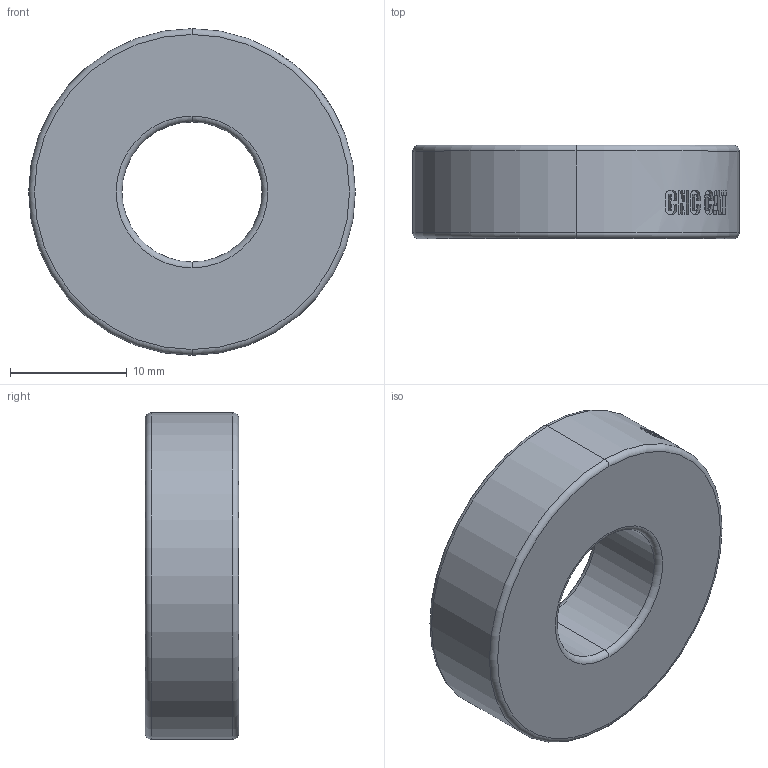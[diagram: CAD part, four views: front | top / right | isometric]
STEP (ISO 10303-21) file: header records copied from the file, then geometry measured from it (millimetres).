
FILE_DESCRIPTION (( 'STEP AP203' ), '1' );
FILE_NAME ('12X28X8mm.STEP', '2017-08-13T07:39:47', ( '' ), ( '' ), 'SwSTEP 2.0', 'SolidWorks 2014', '' );
FILE_SCHEMA (( 'CONFIG_CONTROL_DESIGN' ));
Length unit declared in the file: millimetre
Products named in the file (1): 12X28X8mm
Bounding box: 28 x 8 x 28 mm (x, y, z)
Volume: 4004.1 mm3; surface area: 1971.9 mm2
Topology: 1 solids, 1 shells, 98 faces, 259 edges, 170 vertices
Faces by surface type: plane 47, bspline 32, cylinder 11, torus 8
Entity records: 6638 total; most frequent: CARTESIAN_POINT 4390, ORIENTED_EDGE 518, DIRECTION 340, EDGE_CURVE 259, VERTEX_POINT 170, AXIS2_PLACEMENT_3D 129, B_SPLINE_CURVE_WITH_KNOTS 115, EDGE_LOOP 107
